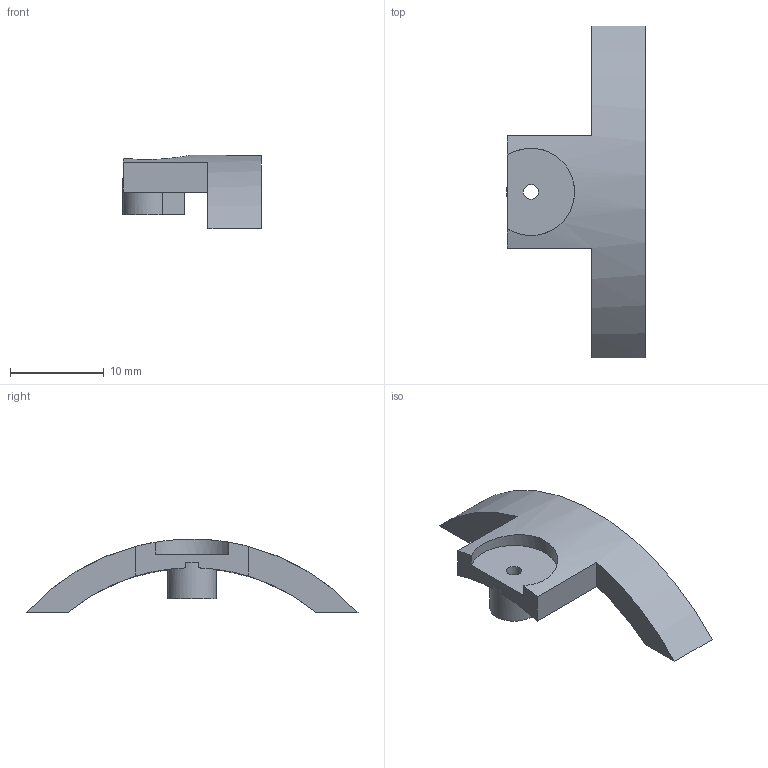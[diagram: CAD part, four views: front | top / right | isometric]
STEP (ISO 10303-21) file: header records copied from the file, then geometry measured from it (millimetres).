
FILE_DESCRIPTION(('SkyG Speed 120B - revision C7B-1 - 2026-10-09','HL2-hatch-lip-rear'),'2;1');
FILE_NAME('HL2-hatch-lip-rear_C7B-1','2026-10-09T15:13:01',('Author'),( 'Open CASCADE'),'Open CASCADE STEP processor 7.9','Open CASCADE 7.9' ,'Unknown');
FILE_SCHEMA(('AUTOMOTIVE_DESIGN { 1 0 10303 214 1 1 1 1 }'));
Length unit declared in the file: millimetre
Products named in the file (1): HL2-hatch-lip-rear C7B-1
Bounding box: 14.8 x 35.37 x 7.85 mm (x, y, z)
Volume: 916 mm3; surface area: 1019.7 mm2
Topology: 1 solids, 1 shells, 18 faces, 48 edges, 32 vertices
Faces by surface type: plane 13, cylinder 5
Full cylindrical faces by diameter (mm): 1.6 x1
Entity records: 1556 total; most frequent: CARTESIAN_POINT 647, DIRECTION 149, ORIENTED_EDGE 96, PCURVE 96, DEFINITIONAL_REPRESENTATION 96, LINE 63, VECTOR 63, EDGE_CURVE 48
